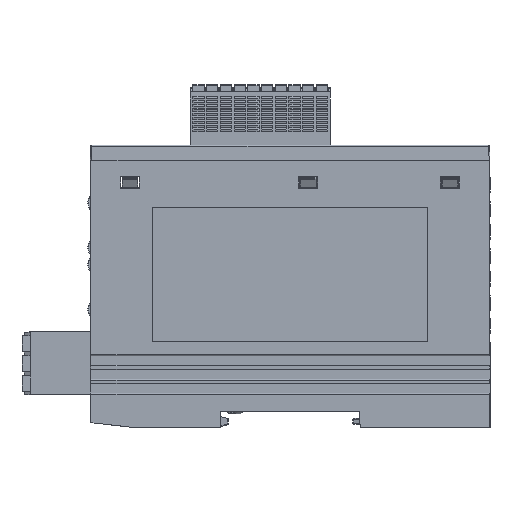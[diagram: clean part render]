
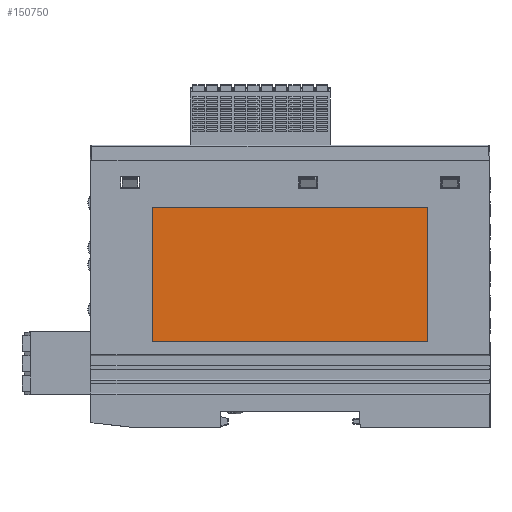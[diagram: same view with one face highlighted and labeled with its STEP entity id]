
A CAD part, left-side view. The second image highlights one B-rep face of the part: STEP entity #150750.
In plain terms, the highlighted planar face has unit normal (-1, 0, 0).
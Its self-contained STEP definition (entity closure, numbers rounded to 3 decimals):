
#37326=DIRECTION('',(0.,-1.,0.));
#37327=VECTOR('',#37326,70.);
#37328=CARTESIAN_POINT('',(-12.3,35.,-46.));
#37329=LINE('',#37328,#37327);
#37338=DIRECTION('',(0.,0.,-1.));
#37339=VECTOR('',#37338,34.);
#37340=CARTESIAN_POINT('',(-12.3,35.,-12.));
#37341=LINE('',#37340,#37339);
#37358=DIRECTION('',(0.,1.,0.));
#37359=VECTOR('',#37358,70.);
#37360=CARTESIAN_POINT('',(-12.3,-35.,-12.));
#37361=LINE('',#37360,#37359);
#37370=DIRECTION('',(0.,0.,1.));
#37371=VECTOR('',#37370,34.);
#37372=CARTESIAN_POINT('',(-12.3,-35.,-46.));
#37373=LINE('',#37372,#37371);
#94117=CARTESIAN_POINT('',(-12.3,35.,-46.));
#94118=VERTEX_POINT('',#94117);
#94119=CARTESIAN_POINT('',(-12.3,-35.,-46.));
#94120=VERTEX_POINT('',#94119);
#94121=CARTESIAN_POINT('',(-12.3,35.,-12.));
#94122=VERTEX_POINT('',#94121);
#94123=CARTESIAN_POINT('',(-12.3,-35.,-12.));
#94124=VERTEX_POINT('',#94123);
#150739=CARTESIAN_POINT('',(-12.3,0.,0.));
#150740=DIRECTION('',(-1.,0.,0.));
#150741=DIRECTION('',(0.,0.,1.));
#150742=AXIS2_PLACEMENT_3D('',#150739,#150740,#150741);
#150743=PLANE('',#150742);
#150744=ORIENTED_EDGE('',*,*,#150678,.F.);
#150745=ORIENTED_EDGE('',*,*,#150694,.F.);
#150746=ORIENTED_EDGE('',*,*,#150720,.F.);
#150747=ORIENTED_EDGE('',*,*,#150733,.F.);
#150748=EDGE_LOOP('',(#150744,#150745,#150746,#150747));
#150749=FACE_OUTER_BOUND('',#150748,.F.);
#150750=ADVANCED_FACE('',(#150749),#150743,.T.);
#150678=EDGE_CURVE('',#94118,#94120,#37329,.T.);
#150694=EDGE_CURVE('',#94122,#94118,#37341,.T.);
#150720=EDGE_CURVE('',#94124,#94122,#37361,.T.);
#150733=EDGE_CURVE('',#94120,#94124,#37373,.T.);
